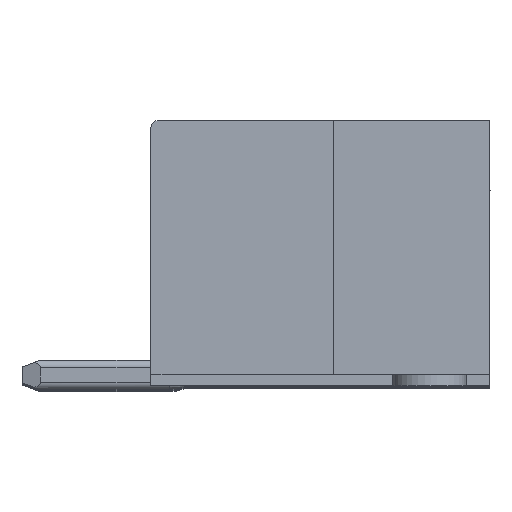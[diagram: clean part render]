
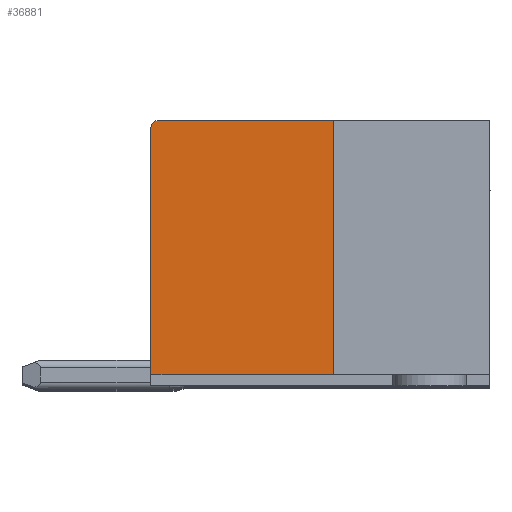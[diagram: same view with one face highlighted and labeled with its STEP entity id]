
A CAD part, top view. The second image highlights one B-rep face of the part: STEP entity #36881.
In plain terms, the highlighted planar face has unit normal (0, 0, 1).
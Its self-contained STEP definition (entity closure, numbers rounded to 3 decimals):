
#869 = VERTEX_POINT ( 'NONE', #5121 ) ;
#1232 = CARTESIAN_POINT ( 'NONE',  ( -4.25, 0.3, -3.7 ) ) ;
#1460 = LINE ( 'NONE', #36175, #34424 ) ;
#2244 = LINE ( 'NONE', #9897, #4978 ) ;
#3584 = B_SPLINE_CURVE_WITH_KNOTS ( 'NONE', 3,
 ( #38178, #5920, #17157, #6375, #30967, #20353 ),
 .UNSPECIFIED., .F., .F.,
 ( 4, 2, 4 ),
 ( 0., 0.5, 1. ),
 .UNSPECIFIED. ) ;
#4226 = DIRECTION ( 'NONE',  ( 1., 0., 0. ) ) ;
#4978 = VECTOR ( 'NONE', #38664, 1000. ) ;
#5048 = FACE_OUTER_BOUND ( 'NONE', #30771, .T. ) ;
#5121 = CARTESIAN_POINT ( 'NONE',  ( -9.2, 7., -3.7 ) ) ;
#5871 = DIRECTION ( 'NONE',  ( 0., 0., 1. ) ) ;
#5920 = CARTESIAN_POINT ( 'NONE',  ( -9.055, 7.2, -3.7 ) ) ;
#6317 = ORIENTED_EDGE ( 'NONE', *, *, #34441, .F. ) ;
#6375 = CARTESIAN_POINT ( 'NONE',  ( -9.18, 7.103, -3.7 ) ) ;
#8606 = EDGE_CURVE ( 'NONE', #13161, #9011, #26632, .T. ) ;
#9011 = VERTEX_POINT ( 'NONE', #18092 ) ;
#9897 = CARTESIAN_POINT ( 'NONE',  ( -9.2, 7.2, -3.7 ) ) ;
#10871 = CARTESIAN_POINT ( 'NONE',  ( -9.2, 0.3, -3.7 ) ) ;
#13161 = VERTEX_POINT ( 'NONE', #10871 ) ;
#14615 = DIRECTION ( 'NONE',  ( 1., 0., 0. ) ) ;
#15224 = CARTESIAN_POINT ( 'NONE',  ( -9.2, 0.3, -3.7 ) ) ;
#15696 = ORIENTED_EDGE ( 'NONE', *, *, #8606, .T. ) ;
#16838 = VECTOR ( 'NONE', #14615, 1000. ) ;
#17157 = CARTESIAN_POINT ( 'NONE',  ( -9.103, 7.18, -3.7 ) ) ;
#18092 = CARTESIAN_POINT ( 'NONE',  ( -4.25, 0.3, -3.7 ) ) ;
#18361 = VERTEX_POINT ( 'NONE', #24223 ) ;
#18751 = DIRECTION ( 'NONE',  ( 0., -1., 0. ) ) ;
#20148 = PLANE ( 'NONE',  #41997 ) ;
#20353 = CARTESIAN_POINT ( 'NONE',  ( -9.2, 7., -3.7 ) ) ;
#21249 = EDGE_CURVE ( 'NONE', #869, #13161, #2244, .T. ) ;
#24223 = CARTESIAN_POINT ( 'NONE',  ( -9., 7.2, -3.7 ) ) ;
#25296 = EDGE_CURVE ( 'NONE', #18361, #25357, #1460, .T. ) ;
#25357 = VERTEX_POINT ( 'NONE', #43992 ) ;
#26040 = ORIENTED_EDGE ( 'NONE', *, *, #31218, .T. ) ;
#26632 = LINE ( 'NONE', #15224, #16838 ) ;
#29884 = ORIENTED_EDGE ( 'NONE', *, *, #21249, .T. ) ;
#30749 = DIRECTION ( 'NONE',  ( 0., 1., 0. ) ) ;
#30771 = EDGE_LOOP ( 'NONE', ( #15696, #6317, #34809, #26040, #29884 ) ) ;
#30967 = CARTESIAN_POINT ( 'NONE',  ( -9.2, 7.056, -3.7 ) ) ;
#31218 = EDGE_CURVE ( 'NONE', #18361, #869, #3584, .T. ) ;
#34131 = CARTESIAN_POINT ( 'NONE',  ( -9.2, 7.2, -3.7 ) ) ;
#34424 = VECTOR ( 'NONE', #4226, 1000. ) ;
#34441 = EDGE_CURVE ( 'NONE', #25357, #9011, #42251, .T. ) ;
#34809 = ORIENTED_EDGE ( 'NONE', *, *, #25296, .F. ) ;
#36175 = CARTESIAN_POINT ( 'NONE',  ( -9.2, 7.2, -3.7 ) ) ;
#36881 = ADVANCED_FACE ( 'NONE', ( #5048 ), #20148, .T. ) ;
#38178 = CARTESIAN_POINT ( 'NONE',  ( -9., 7.2, -3.7 ) ) ;
#38664 = DIRECTION ( 'NONE',  ( 0., -1., 0. ) ) ;
#41997 = AXIS2_PLACEMENT_3D ( 'NONE', #34131, #5871, #30749 ) ;
#42251 = LINE ( 'NONE', #1232, #43349 ) ;
#43349 = VECTOR ( 'NONE', #18751, 1000. ) ;
#43992 = CARTESIAN_POINT ( 'NONE',  ( -4.25, 7.2, -3.7 ) ) ;
